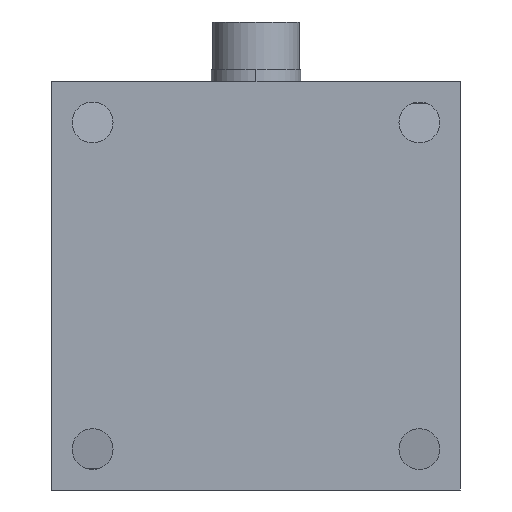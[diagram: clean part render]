
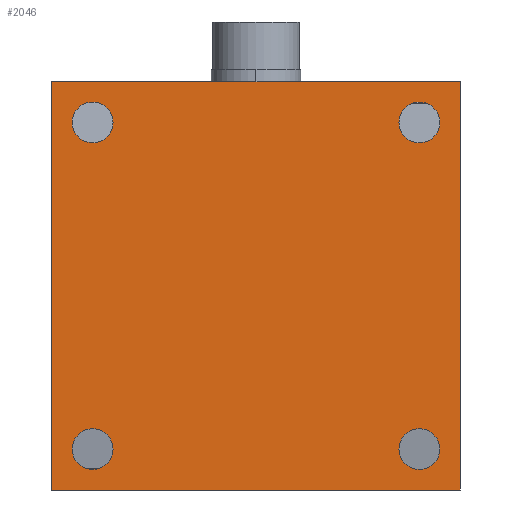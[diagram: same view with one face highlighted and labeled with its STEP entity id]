
A CAD part, front view. The second image highlights one B-rep face of the part: STEP entity #2046.
In plain terms, the highlighted planar face has unit normal (0, -1, 0).
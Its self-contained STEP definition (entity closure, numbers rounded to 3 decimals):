
#16 = CARTESIAN_POINT ( 'NONE',  ( -10., 0., -8.75 ) ) ;
#43 = EDGE_CURVE ( 'NONE', #335, #2864, #1475, .T. ) ;
#80 = EDGE_LOOP ( 'NONE', ( #2894, #942, #2149, #1992 ) ) ;
#96 = EDGE_LOOP ( 'NONE', ( #1756, #723 ) ) ;
#131 = DIRECTION ( 'NONE',  ( 0., -1., 0. ) ) ;
#149 = LINE ( 'NONE', #2847, #1962 ) ;
#183 = VECTOR ( 'NONE', #943, 1000. ) ;
#265 = EDGE_CURVE ( 'NONE', #1247, #335, #149, .T. ) ;
#280 = AXIS2_PLACEMENT_3D ( 'NONE', #846, #2532, #1123 ) ;
#313 = VERTEX_POINT ( 'NONE', #2581 ) ;
#335 = VERTEX_POINT ( 'NONE', #933 ) ;
#357 = CIRCLE ( 'NONE', #2021, 1.25 ) ;
#367 = CARTESIAN_POINT ( 'NONE',  ( 10., 0., -10. ) ) ;
#397 = DIRECTION ( 'NONE',  ( -1., 0., 0. ) ) ;
#458 = EDGE_CURVE ( 'NONE', #1800, #1359, #1361, .T. ) ;
#507 = ORIENTED_EDGE ( 'NONE', *, *, #768, .F. ) ;
#526 = PLANE ( 'NONE',  #2541 ) ;
#536 = FACE_BOUND ( 'NONE', #96, .T. ) ;
#550 = CIRCLE ( 'NONE', #280, 1.25 ) ;
#554 = CIRCLE ( 'NONE', #1619, 1.25 ) ;
#583 = CIRCLE ( 'NONE', #2044, 1.25 ) ;
#596 = DIRECTION ( 'NONE',  ( 0., 0., -1. ) ) ;
#621 = AXIS2_PLACEMENT_3D ( 'NONE', #367, #2013, #596 ) ;
#633 = CARTESIAN_POINT ( 'NONE',  ( -10., 0., 10. ) ) ;
#651 = VERTEX_POINT ( 'NONE', #1839 ) ;
#723 = ORIENTED_EDGE ( 'NONE', *, *, #2648, .F. ) ;
#768 = EDGE_CURVE ( 'NONE', #1320, #2291, #554, .T. ) ;
#808 = LINE ( 'NONE', #2594, #183 ) ;
#846 = CARTESIAN_POINT ( 'NONE',  ( 10., 0., 10. ) ) ;
#877 = DIRECTION ( 'NONE',  ( 0., 0., -1. ) ) ;
#914 = ORIENTED_EDGE ( 'NONE', *, *, #1043, .F. ) ;
#925 = EDGE_LOOP ( 'NONE', ( #1665, #507 ) ) ;
#933 = CARTESIAN_POINT ( 'NONE',  ( 12.5, 0., -12.5 ) ) ;
#938 = ORIENTED_EDGE ( 'NONE', *, *, #458, .F. ) ;
#942 = ORIENTED_EDGE ( 'NONE', *, *, #43, .F. ) ;
#943 = DIRECTION ( 'NONE',  ( 0., 0., 1. ) ) ;
#986 = DIRECTION ( 'NONE',  ( 0., -1., 0. ) ) ;
#993 = DIRECTION ( 'NONE',  ( 0., 0., 1. ) ) ;
#998 = VERTEX_POINT ( 'NONE', #2372 ) ;
#1032 = CARTESIAN_POINT ( 'NONE',  ( -10., 0., 10. ) ) ;
#1043 = EDGE_CURVE ( 'NONE', #998, #2433, #583, .T. ) ;
#1123 = DIRECTION ( 'NONE',  ( 0., 0., -1. ) ) ;
#1163 = CARTESIAN_POINT ( 'NONE',  ( 10., 0., -11.25 ) ) ;
#1232 = FACE_BOUND ( 'NONE', #2828, .T. ) ;
#1245 = CARTESIAN_POINT ( 'NONE',  ( -10., 0., 8.75 ) ) ;
#1247 = VERTEX_POINT ( 'NONE', #2349 ) ;
#1261 = DIRECTION ( 'NONE',  ( 0., -1., 0. ) ) ;
#1291 = EDGE_LOOP ( 'NONE', ( #1831, #938 ) ) ;
#1312 = DIRECTION ( 'NONE',  ( 0., -1., 0. ) ) ;
#1319 = DIRECTION ( 'NONE',  ( 0., -1., 0. ) ) ;
#1320 = VERTEX_POINT ( 'NONE', #16 ) ;
#1332 = AXIS2_PLACEMENT_3D ( 'NONE', #1032, #1261, #2050 ) ;
#1359 = VERTEX_POINT ( 'NONE', #1245 ) ;
#1360 = CARTESIAN_POINT ( 'NONE',  ( -12.5, 0., 12.5 ) ) ;
#1361 = CIRCLE ( 'NONE', #1332, 1.25 ) ;
#1368 = CARTESIAN_POINT ( 'NONE',  ( -12.5, 0., -12.5 ) ) ;
#1475 = LINE ( 'NONE', #1843, #2666 ) ;
#1527 = CARTESIAN_POINT ( 'NONE',  ( -10., 0., -10. ) ) ;
#1545 = CIRCLE ( 'NONE', #621, 1.25 ) ;
#1597 = EDGE_CURVE ( 'NONE', #2433, #998, #550, .T. ) ;
#1619 = AXIS2_PLACEMENT_3D ( 'NONE', #2969, #1312, #2732 ) ;
#1620 = EDGE_CURVE ( 'NONE', #651, #1247, #2980, .T. ) ;
#1665 = ORIENTED_EDGE ( 'NONE', *, *, #2209, .F. ) ;
#1726 = VECTOR ( 'NONE', #2962, 1000. ) ;
#1736 = EDGE_CURVE ( 'NONE', #2864, #651, #808, .T. ) ;
#1756 = ORIENTED_EDGE ( 'NONE', *, *, #3039, .F. ) ;
#1767 = CARTESIAN_POINT ( 'NONE',  ( -10., 0., -11.25 ) ) ;
#1771 = DIRECTION ( 'NONE',  ( 0., 0., -1. ) ) ;
#1778 = FACE_BOUND ( 'NONE', #925, .T. ) ;
#1800 = VERTEX_POINT ( 'NONE', #2616 ) ;
#1831 = ORIENTED_EDGE ( 'NONE', *, *, #2784, .F. ) ;
#1839 = CARTESIAN_POINT ( 'NONE',  ( -12.5, 0., 12.5 ) ) ;
#1843 = CARTESIAN_POINT ( 'NONE',  ( -12.5, 0., -12.5 ) ) ;
#1892 = CIRCLE ( 'NONE', #2051, 1.25 ) ;
#1962 = VECTOR ( 'NONE', #2132, 1000. ) ;
#1992 = ORIENTED_EDGE ( 'NONE', *, *, #1620, .F. ) ;
#2011 = AXIS2_PLACEMENT_3D ( 'NONE', #1527, #131, #1771 ) ;
#2013 = DIRECTION ( 'NONE',  ( 0., -1., 0. ) ) ;
#2021 = AXIS2_PLACEMENT_3D ( 'NONE', #2741, #1319, #2976 ) ;
#2044 = AXIS2_PLACEMENT_3D ( 'NONE', #2402, #986, #2641 ) ;
#2046 = ADVANCED_FACE ( 'NONE', ( #536, #1778, #1232, #2965, #2341 ), #526, .F. ) ;
#2050 = DIRECTION ( 'NONE',  ( 0., 0., -1. ) ) ;
#2051 = AXIS2_PLACEMENT_3D ( 'NONE', #633, #2286, #877 ) ;
#2132 = DIRECTION ( 'NONE',  ( 0., 0., -1. ) ) ;
#2149 = ORIENTED_EDGE ( 'NONE', *, *, #265, .F. ) ;
#2209 = EDGE_CURVE ( 'NONE', #2291, #1320, #2452, .T. ) ;
#2216 = ORIENTED_EDGE ( 'NONE', *, *, #1597, .F. ) ;
#2286 = DIRECTION ( 'NONE',  ( 0., -1., 0. ) ) ;
#2291 = VERTEX_POINT ( 'NONE', #1767 ) ;
#2341 = FACE_OUTER_BOUND ( 'NONE', #80, .T. ) ;
#2349 = CARTESIAN_POINT ( 'NONE',  ( 12.5, 0., 12.5 ) ) ;
#2372 = CARTESIAN_POINT ( 'NONE',  ( 10., 0., 8.75 ) ) ;
#2402 = CARTESIAN_POINT ( 'NONE',  ( 10., 0., 10. ) ) ;
#2410 = DIRECTION ( 'NONE',  ( 0., 1., 0. ) ) ;
#2433 = VERTEX_POINT ( 'NONE', #2517 ) ;
#2452 = CIRCLE ( 'NONE', #2011, 1.25 ) ;
#2517 = CARTESIAN_POINT ( 'NONE',  ( 10., 0., 11.25 ) ) ;
#2532 = DIRECTION ( 'NONE',  ( 0., -1., 0. ) ) ;
#2541 = AXIS2_PLACEMENT_3D ( 'NONE', #2640, #2410, #993 ) ;
#2581 = CARTESIAN_POINT ( 'NONE',  ( 10., 0., -8.75 ) ) ;
#2594 = CARTESIAN_POINT ( 'NONE',  ( -12.5, 0., -12.5 ) ) ;
#2608 = VERTEX_POINT ( 'NONE', #1163 ) ;
#2616 = CARTESIAN_POINT ( 'NONE',  ( -10., 0., 11.25 ) ) ;
#2640 = CARTESIAN_POINT ( 'NONE',  ( 0., 0., 0. ) ) ;
#2641 = DIRECTION ( 'NONE',  ( 0., 0., -1. ) ) ;
#2648 = EDGE_CURVE ( 'NONE', #313, #2608, #1545, .T. ) ;
#2666 = VECTOR ( 'NONE', #397, 1000. ) ;
#2732 = DIRECTION ( 'NONE',  ( 0., 0., -1. ) ) ;
#2741 = CARTESIAN_POINT ( 'NONE',  ( 10., 0., -10. ) ) ;
#2784 = EDGE_CURVE ( 'NONE', #1359, #1800, #1892, .T. ) ;
#2828 = EDGE_LOOP ( 'NONE', ( #914, #2216 ) ) ;
#2847 = CARTESIAN_POINT ( 'NONE',  ( 12.5, 0., -12.5 ) ) ;
#2864 = VERTEX_POINT ( 'NONE', #1368 ) ;
#2894 = ORIENTED_EDGE ( 'NONE', *, *, #1736, .F. ) ;
#2962 = DIRECTION ( 'NONE',  ( 1., 0., 0. ) ) ;
#2965 = FACE_BOUND ( 'NONE', #1291, .T. ) ;
#2969 = CARTESIAN_POINT ( 'NONE',  ( -10., 0., -10. ) ) ;
#2976 = DIRECTION ( 'NONE',  ( 0., 0., -1. ) ) ;
#2980 = LINE ( 'NONE', #1360, #1726 ) ;
#3039 = EDGE_CURVE ( 'NONE', #2608, #313, #357, .T. ) ;
